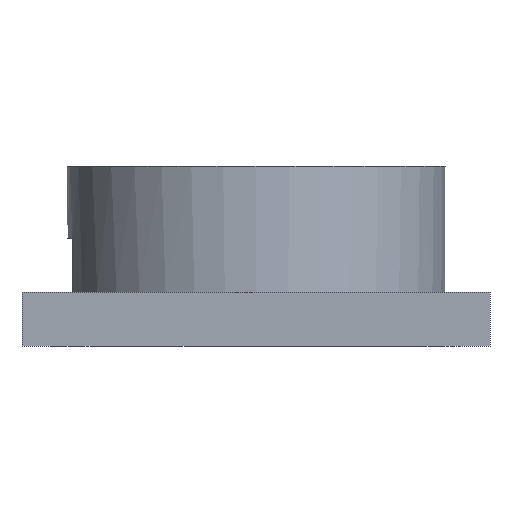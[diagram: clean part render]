
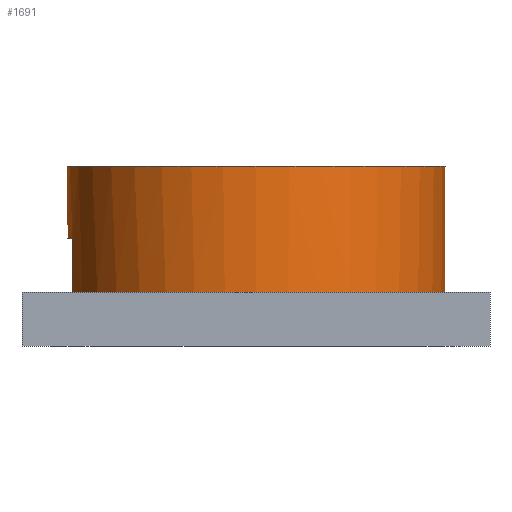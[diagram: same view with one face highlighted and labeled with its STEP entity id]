
A CAD part, front view. The second image highlights one B-rep face of the part: STEP entity #1691.
In plain terms, the highlighted cylindrical face has radius 21 mm (diameter 42 mm), a full revolution.
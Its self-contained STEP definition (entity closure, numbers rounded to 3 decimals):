
#521 = PLANE('',#522);
#522 = AXIS2_PLACEMENT_3D('',#523,#524,#525);
#523 = CARTESIAN_POINT('',(26.,26.,6.));
#524 = DIRECTION('',(0.,0.,-1.));
#525 = DIRECTION('',(0.,-1.,0.));
#772 = PLANE('',#773);
#773 = AXIS2_PLACEMENT_3D('',#774,#775,#776);
#774 = CARTESIAN_POINT('',(0.,0.,20.));
#775 = DIRECTION('',(0.,0.,-1.));
#776 = DIRECTION('',(0.,-1.,0.));
#1104 = PLANE('',#1105);
#1105 = AXIS2_PLACEMENT_3D('',#1106,#1107,#1108);
#1106 = CARTESIAN_POINT('',(-11.,5.,12.));
#1107 = DIRECTION('',(0.,-1.,0.));
#1108 = DIRECTION('',(0.,0.,-1.));
#1133 = PLANE('',#1134);
#1134 = AXIS2_PLACEMENT_3D('',#1135,#1136,#1137);
#1135 = CARTESIAN_POINT('',(-11.,5.,12.));
#1136 = DIRECTION('',(0.,0.,-1.));
#1137 = DIRECTION('',(0.,-1.,0.));
#1160 = PLANE('',#1161);
#1161 = AXIS2_PLACEMENT_3D('',#1162,#1163,#1164);
#1162 = CARTESIAN_POINT('',(-11.,-5.,12.));
#1163 = DIRECTION('',(0.,-1.,0.));
#1164 = DIRECTION('',(0.,0.,-1.));
#1356 = EDGE_CURVE('',#1357,#1359,#1361,.T.);
#1357 = VERTEX_POINT('',#1358);
#1358 = CARTESIAN_POINT('',(-20.396,5.,6.));
#1359 = VERTEX_POINT('',#1360);
#1360 = CARTESIAN_POINT('',(0.,-21.,6.));
#1361 = SURFACE_CURVE('',#1362,(#1367,#1374),.PCURVE_S1.);
#1362 = CIRCLE('',#1363,21.);
#1363 = AXIS2_PLACEMENT_3D('',#1364,#1365,#1366);
#1364 = CARTESIAN_POINT('',(0.,0.,6.));
#1365 = DIRECTION('',(0.,0.,-1.));
#1366 = DIRECTION('',(0.,-1.,0.));
#1367 = PCURVE('',#521,#1368);
#1368 = DEFINITIONAL_REPRESENTATION('',(#1369),#1373);
#1369 = CIRCLE('',#1370,21.);
#1370 = AXIS2_PLACEMENT_2D('',#1371,#1372);
#1371 = CARTESIAN_POINT('',(26.,26.));
#1372 = DIRECTION('',(1.,0.));
#1373 = ( GEOMETRIC_REPRESENTATION_CONTEXT(2) 
PARAMETRIC_REPRESENTATION_CONTEXT() REPRESENTATION_CONTEXT('2D SPACE',''
  ) );
#1374 = PCURVE('',#1375,#1380);
#1375 = CYLINDRICAL_SURFACE('',#1376,21.);
#1376 = AXIS2_PLACEMENT_3D('',#1377,#1378,#1379);
#1377 = CARTESIAN_POINT('',(0.,0.,20.));
#1378 = DIRECTION('',(0.,0.,-1.));
#1379 = DIRECTION('',(0.,-1.,0.));
#1380 = DEFINITIONAL_REPRESENTATION('',(#1381),#1385);
#1381 = LINE('',#1382,#1383);
#1382 = CARTESIAN_POINT('',(0.,14.));
#1383 = VECTOR('',#1384,1.);
#1384 = DIRECTION('',(1.,0.));
#1385 = ( GEOMETRIC_REPRESENTATION_CONTEXT(2) 
PARAMETRIC_REPRESENTATION_CONTEXT() REPRESENTATION_CONTEXT('2D SPACE',''
  ) );
#1410 = VERTEX_POINT('',#1411);
#1411 = CARTESIAN_POINT('',(-20.396,-5.,6.));
#1432 = EDGE_CURVE('',#1359,#1410,#1433,.T.);
#1433 = SURFACE_CURVE('',#1434,(#1439,#1446),.PCURVE_S1.);
#1434 = CIRCLE('',#1435,21.);
#1435 = AXIS2_PLACEMENT_3D('',#1436,#1437,#1438);
#1436 = CARTESIAN_POINT('',(0.,0.,6.));
#1437 = DIRECTION('',(0.,0.,-1.));
#1438 = DIRECTION('',(0.,-1.,0.));
#1439 = PCURVE('',#521,#1440);
#1440 = DEFINITIONAL_REPRESENTATION('',(#1441),#1445);
#1441 = CIRCLE('',#1442,21.);
#1442 = AXIS2_PLACEMENT_2D('',#1443,#1444);
#1443 = CARTESIAN_POINT('',(26.,26.));
#1444 = DIRECTION('',(1.,0.));
#1445 = ( GEOMETRIC_REPRESENTATION_CONTEXT(2) 
PARAMETRIC_REPRESENTATION_CONTEXT() REPRESENTATION_CONTEXT('2D SPACE',''
  ) );
#1446 = PCURVE('',#1375,#1447);
#1447 = DEFINITIONAL_REPRESENTATION('',(#1448),#1452);
#1448 = LINE('',#1449,#1450);
#1449 = CARTESIAN_POINT('',(0.,14.));
#1450 = VECTOR('',#1451,1.);
#1451 = DIRECTION('',(1.,0.));
#1452 = ( GEOMETRIC_REPRESENTATION_CONTEXT(2) 
PARAMETRIC_REPRESENTATION_CONTEXT() REPRESENTATION_CONTEXT('2D SPACE',''
  ) );
#1469 = EDGE_CURVE('',#1470,#1470,#1472,.T.);
#1470 = VERTEX_POINT('',#1471);
#1471 = CARTESIAN_POINT('',(0.,-21.,20.));
#1472 = SURFACE_CURVE('',#1473,(#1478,#1485),.PCURVE_S1.);
#1473 = CIRCLE('',#1474,21.);
#1474 = AXIS2_PLACEMENT_3D('',#1475,#1476,#1477);
#1475 = CARTESIAN_POINT('',(0.,0.,20.));
#1476 = DIRECTION('',(0.,0.,-1.));
#1477 = DIRECTION('',(0.,-1.,0.));
#1478 = PCURVE('',#772,#1479);
#1479 = DEFINITIONAL_REPRESENTATION('',(#1480),#1484);
#1480 = CIRCLE('',#1481,21.);
#1481 = AXIS2_PLACEMENT_2D('',#1482,#1483);
#1482 = CARTESIAN_POINT('',(0.,0.));
#1483 = DIRECTION('',(1.,0.));
#1484 = ( GEOMETRIC_REPRESENTATION_CONTEXT(2) 
PARAMETRIC_REPRESENTATION_CONTEXT() REPRESENTATION_CONTEXT('2D SPACE',''
  ) );
#1485 = PCURVE('',#1375,#1486);
#1486 = DEFINITIONAL_REPRESENTATION('',(#1487),#1491);
#1487 = LINE('',#1488,#1489);
#1488 = CARTESIAN_POINT('',(0.,0.));
#1489 = VECTOR('',#1490,1.);
#1490 = DIRECTION('',(1.,0.));
#1491 = ( GEOMETRIC_REPRESENTATION_CONTEXT(2) 
PARAMETRIC_REPRESENTATION_CONTEXT() REPRESENTATION_CONTEXT('2D SPACE',''
  ) );
#1548 = VERTEX_POINT('',#1549);
#1549 = CARTESIAN_POINT('',(-20.396,5.,12.));
#1570 = EDGE_CURVE('',#1548,#1357,#1571,.T.);
#1571 = SURFACE_CURVE('',#1572,(#1576,#1583),.PCURVE_S1.);
#1572 = LINE('',#1573,#1574);
#1573 = CARTESIAN_POINT('',(-20.396,5.,20.));
#1574 = VECTOR('',#1575,1.);
#1575 = DIRECTION('',(0.,0.,-1.));
#1576 = PCURVE('',#1104,#1577);
#1577 = DEFINITIONAL_REPRESENTATION('',(#1578),#1582);
#1578 = LINE('',#1579,#1580);
#1579 = CARTESIAN_POINT('',(-8.,-9.396));
#1580 = VECTOR('',#1581,1.);
#1581 = DIRECTION('',(1.,0.));
#1582 = ( GEOMETRIC_REPRESENTATION_CONTEXT(2) 
PARAMETRIC_REPRESENTATION_CONTEXT() REPRESENTATION_CONTEXT('2D SPACE',''
  ) );
#1583 = PCURVE('',#1375,#1584);
#1584 = DEFINITIONAL_REPRESENTATION('',(#1585),#1588);
#1585 = B_SPLINE_CURVE_WITH_KNOTS('',1,(#1586,#1587),.UNSPECIFIED.,.F.,
  .F.,(2,2),(7.4,14.),.PIECEWISE_BEZIER_KNOTS.);
#1586 = CARTESIAN_POINT('',(1.811,7.4));
#1587 = CARTESIAN_POINT('',(1.811,14.));
#1588 = ( GEOMETRIC_REPRESENTATION_CONTEXT(2) 
PARAMETRIC_REPRESENTATION_CONTEXT() REPRESENTATION_CONTEXT('2D SPACE',''
  ) );
#1596 = VERTEX_POINT('',#1597);
#1597 = CARTESIAN_POINT('',(-20.396,-5.,12.));
#1618 = EDGE_CURVE('',#1596,#1410,#1619,.T.);
#1619 = SURFACE_CURVE('',#1620,(#1624,#1631),.PCURVE_S1.);
#1620 = LINE('',#1621,#1622);
#1621 = CARTESIAN_POINT('',(-20.396,-5.,20.));
#1622 = VECTOR('',#1623,1.);
#1623 = DIRECTION('',(0.,0.,-1.));
#1624 = PCURVE('',#1160,#1625);
#1625 = DEFINITIONAL_REPRESENTATION('',(#1626),#1630);
#1626 = LINE('',#1627,#1628);
#1627 = CARTESIAN_POINT('',(-8.,-9.396));
#1628 = VECTOR('',#1629,1.);
#1629 = DIRECTION('',(1.,0.));
#1630 = ( GEOMETRIC_REPRESENTATION_CONTEXT(2) 
PARAMETRIC_REPRESENTATION_CONTEXT() REPRESENTATION_CONTEXT('2D SPACE',''
  ) );
#1631 = PCURVE('',#1375,#1632);
#1632 = DEFINITIONAL_REPRESENTATION('',(#1633),#1636);
#1633 = B_SPLINE_CURVE_WITH_KNOTS('',1,(#1634,#1635),.UNSPECIFIED.,.F.,
  .F.,(2,2),(7.4,14.),.PIECEWISE_BEZIER_KNOTS.);
#1634 = CARTESIAN_POINT('',(1.33,7.4));
#1635 = CARTESIAN_POINT('',(1.33,14.));
#1636 = ( GEOMETRIC_REPRESENTATION_CONTEXT(2) 
PARAMETRIC_REPRESENTATION_CONTEXT() REPRESENTATION_CONTEXT('2D SPACE',''
  ) );
#1644 = EDGE_CURVE('',#1596,#1548,#1645,.T.);
#1645 = SURFACE_CURVE('',#1646,(#1651,#1658),.PCURVE_S1.);
#1646 = CIRCLE('',#1647,21.);
#1647 = AXIS2_PLACEMENT_3D('',#1648,#1649,#1650);
#1648 = CARTESIAN_POINT('',(0.,0.,12.));
#1649 = DIRECTION('',(0.,0.,-1.));
#1650 = DIRECTION('',(0.,-1.,0.));
#1651 = PCURVE('',#1133,#1652);
#1652 = DEFINITIONAL_REPRESENTATION('',(#1653),#1657);
#1653 = CIRCLE('',#1654,21.);
#1654 = AXIS2_PLACEMENT_2D('',#1655,#1656);
#1655 = CARTESIAN_POINT('',(5.,-11.));
#1656 = DIRECTION('',(1.,0.));
#1657 = ( GEOMETRIC_REPRESENTATION_CONTEXT(2) 
PARAMETRIC_REPRESENTATION_CONTEXT() REPRESENTATION_CONTEXT('2D SPACE',''
  ) );
#1658 = PCURVE('',#1375,#1659);
#1659 = DEFINITIONAL_REPRESENTATION('',(#1660),#1664);
#1660 = LINE('',#1661,#1662);
#1661 = CARTESIAN_POINT('',(0.,8.));
#1662 = VECTOR('',#1663,1.);
#1663 = DIRECTION('',(1.,0.));
#1664 = ( GEOMETRIC_REPRESENTATION_CONTEXT(2) 
PARAMETRIC_REPRESENTATION_CONTEXT() REPRESENTATION_CONTEXT('2D SPACE',''
  ) );
#1691 = ADVANCED_FACE('',(#1692),#1375,.T.);
#1692 = FACE_BOUND('',#1693,.T.);
#1693 = EDGE_LOOP('',(#1694,#1715,#1716,#1717,#1718,#1719,#1720,#1721));
#1694 = ORIENTED_EDGE('',*,*,#1695,.T.);
#1695 = EDGE_CURVE('',#1470,#1359,#1696,.T.);
#1696 = SEAM_CURVE('',#1697,(#1701,#1708),.PCURVE_S1.);
#1697 = LINE('',#1698,#1699);
#1698 = CARTESIAN_POINT('',(0.,-21.,20.));
#1699 = VECTOR('',#1700,1.);
#1700 = DIRECTION('',(0.,0.,-1.));
#1701 = PCURVE('',#1375,#1702);
#1702 = DEFINITIONAL_REPRESENTATION('',(#1703),#1707);
#1703 = LINE('',#1704,#1705);
#1704 = CARTESIAN_POINT('',(6.283,0.));
#1705 = VECTOR('',#1706,1.);
#1706 = DIRECTION('',(0.,1.));
#1707 = ( GEOMETRIC_REPRESENTATION_CONTEXT(2) 
PARAMETRIC_REPRESENTATION_CONTEXT() REPRESENTATION_CONTEXT('2D SPACE',''
  ) );
#1708 = PCURVE('',#1375,#1709);
#1709 = DEFINITIONAL_REPRESENTATION('',(#1710),#1714);
#1710 = LINE('',#1711,#1712);
#1711 = CARTESIAN_POINT('',(0.,0.));
#1712 = VECTOR('',#1713,1.);
#1713 = DIRECTION('',(0.,1.));
#1714 = ( GEOMETRIC_REPRESENTATION_CONTEXT(2) 
PARAMETRIC_REPRESENTATION_CONTEXT() REPRESENTATION_CONTEXT('2D SPACE',''
  ) );
#1715 = ORIENTED_EDGE('',*,*,#1356,.F.);
#1716 = ORIENTED_EDGE('',*,*,#1570,.F.);
#1717 = ORIENTED_EDGE('',*,*,#1644,.F.);
#1718 = ORIENTED_EDGE('',*,*,#1618,.T.);
#1719 = ORIENTED_EDGE('',*,*,#1432,.F.);
#1720 = ORIENTED_EDGE('',*,*,#1695,.F.);
#1721 = ORIENTED_EDGE('',*,*,#1469,.T.);
